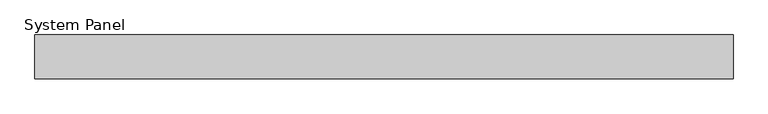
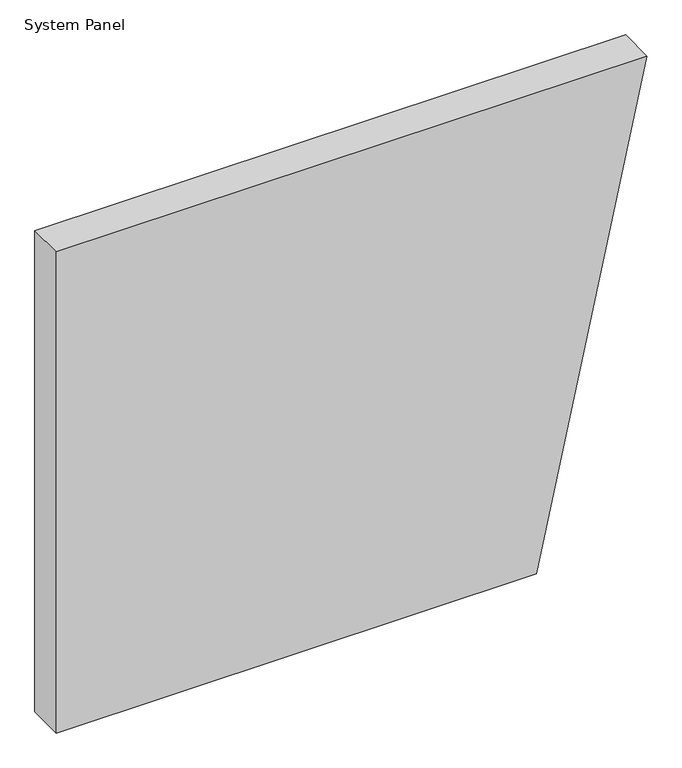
"""IFC4 building model written with IfcOpenShell, lengths in millimetres: plate geometry, System Panel : Inspire 80mm Horizontal - Plain RHEA-PIR."""

from ifc_helpers import new_model, si_unit, frame, origin, place, context, project, spatial, polyline, outline, extrude, source, transform, mapped, element, save


def system_panel_6406c018(model_context):
    return source(origin(), model_context, "Body", "SweptSolid", [
        extrude(outline(polyline([(0.0, -639.1323567), (0.0, 400.0), (1100.0, 639.1323567), (1100.0, -639.1323567), (0.0, -639.1323567)])), frame((0.0, -80.0, 0.0), z_axis=(0.0, 1.0, 0.0), x_axis=(0.0, 0.0, 1.0)), (0.0, 0.0, 1.0), 80.0),
    ])


if __name__ == "__main__":
    model = new_model("IFC4")
    model_context = context("Model", 3, world=origin())
    ifc_project = project(units=[si_unit("LENGTHUNIT", "METRE", prefix="MILLI")], contexts=[model_context])
    site = spatial("IfcSite", under=ifc_project)
    building = spatial("IfcBuilding", under=site)
    placement = place(None, origin())
    system_panel_shape = system_panel_6406c018(model_context)
    element("IfcPlate", 1, ObjectType="System Panel : Inspire 80mm Horizontal - Plain RHEA-PIR", at=placement, inside=building, context=model_context, shape_type="MappedRepresentation", body=[
        mapped(system_panel_shape, transform((0.0, 0.0, 0.0), x_axis=(1.0, 0.0, 0.0), y_axis=(0.0, 1.0, 0.0), z_axis=(0.0, 0.0, 1.0))),
    ])
    save(model, "model.ifc")
